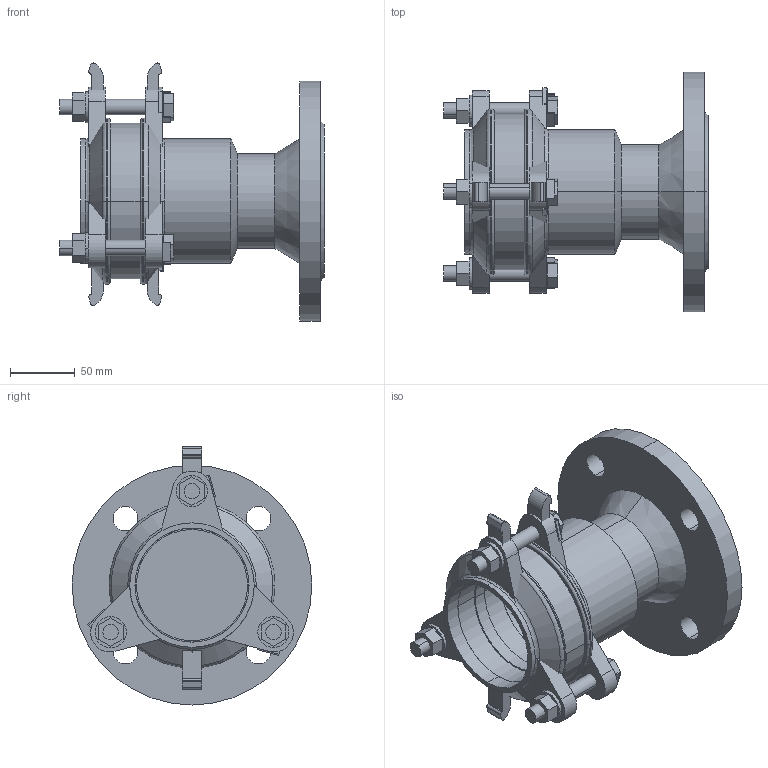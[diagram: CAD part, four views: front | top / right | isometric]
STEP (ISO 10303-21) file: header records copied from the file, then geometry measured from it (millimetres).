
FILE_DESCRIPTION(('STEP AP214'),'1');
FILE_NAME('EM000037 DN 65.STP','2015-01-29T08:59:11',(' '),(' '),'Spatial InterOp 3D',' ',' ');
FILE_SCHEMA(('automotive_design'));
Length unit declared in the file: millimetre
Products named in the file (38): 3D-Objekt
Bounding box: 204 x 185 x 199.05 mm (x, y, z)
Volume: 1010574.7 mm3; surface area: 319532.7 mm2
Topology: 38 solids, 38 shells, 299 faces, 667 edges, 444 vertices
Faces by surface type: plane 186, cylinder 87, cone 14, torus 12
Entity records: 11661 total; most frequent: DIRECTION 1577, CARTESIAN_POINT 1448, ORIENTED_EDGE 1334, EDGE_CURVE 667, AXIS2_PLACEMENT_3D 573, VERTEX_POINT 444, LINE 431, VECTOR 431
